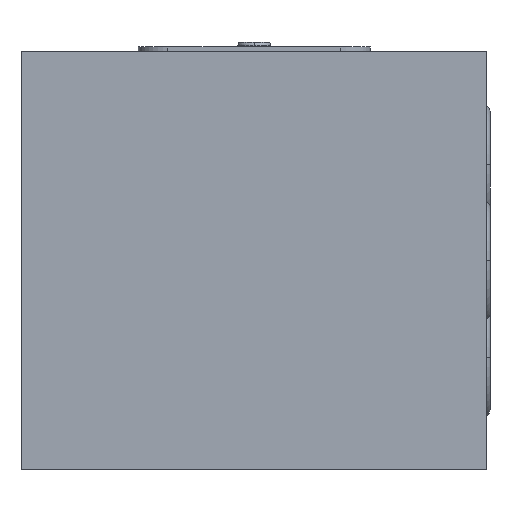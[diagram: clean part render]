
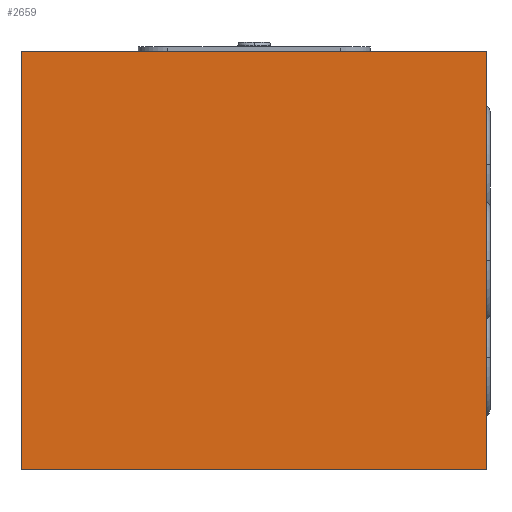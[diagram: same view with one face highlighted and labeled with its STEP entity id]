
A CAD part, left-side view. The second image highlights one B-rep face of the part: STEP entity #2659.
In plain terms, the highlighted planar face has unit normal (-1, 0, 0).
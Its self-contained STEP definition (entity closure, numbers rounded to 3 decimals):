
#56=DIRECTION('',(0.,0.,-1.));
#57=VECTOR('',#56,45.);
#58=CARTESIAN_POINT('',(0.,0.,0.));
#59=LINE('',#58,#57);
#63=DIRECTION('',(0.,1.,0.));
#64=VECTOR('',#63,50.);
#65=CARTESIAN_POINT('',(0.,0.,-45.));
#66=LINE('',#65,#64);
#70=DIRECTION('',(0.,0.,1.));
#71=VECTOR('',#70,45.);
#72=CARTESIAN_POINT('',(0.,50.,-45.));
#73=LINE('',#72,#71);
#77=DIRECTION('',(0.,-1.,0.));
#78=VECTOR('',#77,50.);
#79=CARTESIAN_POINT('',(0.,50.,0.));
#80=LINE('',#79,#78);
#2394=CARTESIAN_POINT('',(0.,0.,0.));
#2395=CARTESIAN_POINT('',(0.,0.,-45.));
#2396=VERTEX_POINT('',#2394);
#2397=VERTEX_POINT('',#2395);
#2398=CARTESIAN_POINT('',(0.,50.,-45.));
#2399=VERTEX_POINT('',#2398);
#2400=CARTESIAN_POINT('',(0.,50.,0.));
#2401=VERTEX_POINT('',#2400);
#2644=CARTESIAN_POINT('',(0.,0.,0.));
#2645=DIRECTION('',(1.,0.,0.));
#2646=DIRECTION('',(0.,0.,-1.));
#2647=AXIS2_PLACEMENT_3D('',#2644,#2645,#2646);
#2648=PLANE('',#2647);
#2650=ORIENTED_EDGE('',*,*,#2649,.T.);
#2652=ORIENTED_EDGE('',*,*,#2651,.T.);
#2654=ORIENTED_EDGE('',*,*,#2653,.T.);
#2656=ORIENTED_EDGE('',*,*,#2655,.T.);
#2657=EDGE_LOOP('',(#2650,#2652,#2654,#2656));
#2658=FACE_OUTER_BOUND('',#2657,.F.);
#2649=EDGE_CURVE('',#2396,#2397,#59,.T.);
#2651=EDGE_CURVE('',#2397,#2399,#66,.T.);
#2653=EDGE_CURVE('',#2399,#2401,#73,.T.);
#2655=EDGE_CURVE('',#2401,#2396,#80,.T.);
#2659=ADVANCED_FACE('',(#2658),#2648,.F.);
